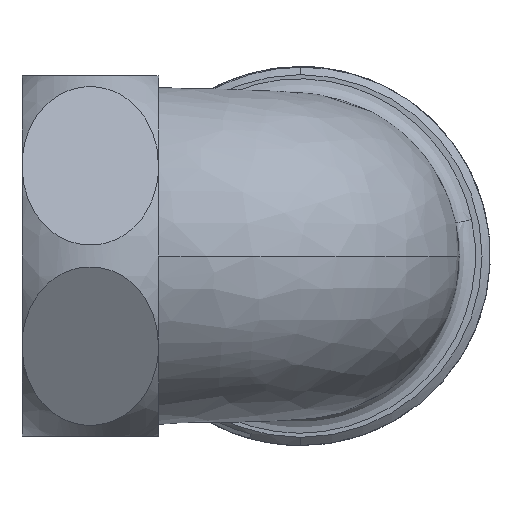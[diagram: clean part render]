
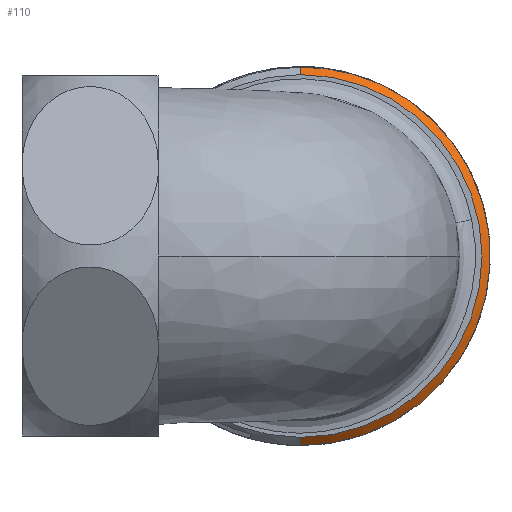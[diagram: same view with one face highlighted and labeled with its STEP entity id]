
A CAD part, left-side view. The second image highlights one B-rep face of the part: STEP entity #110.
In plain terms, the highlighted conical face has half-angle 45 degrees and reference radius 33.2 mm.
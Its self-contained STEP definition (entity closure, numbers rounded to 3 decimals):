
#110 = ADVANCED_FACE ( 'NONE', ( #2138 ), #2130, .T. ) ;
#111 = EDGE_LOOP ( 'NONE', ( #112, #113, #116, #117, #118 ) ) ;
#112 = ORIENTED_EDGE ( 'NONE', *, *, #497, .F. ) ;
#113 = ORIENTED_EDGE ( 'NONE', *, *, #1201, .F. ) ;
#116 = ORIENTED_EDGE ( 'NONE', *, *, #424, .T. ) ;
#117 = ORIENTED_EDGE ( 'NONE', *, *, #783, .F. ) ;
#118 = ORIENTED_EDGE ( 'NONE', *, *, #179, .T. ) ;
#179 = EDGE_CURVE ( 'NONE', #872, #498, #7610, .T. ) ;
#422 = VERTEX_POINT ( 'NONE', #3392 ) ;
#424 = EDGE_CURVE ( 'NONE', #429, #422, #3391, .T. ) ;
#427 = VERTEX_POINT ( 'NONE', #2906 ) ;
#429 = VERTEX_POINT ( 'NONE', #2949 ) ;
#497 = EDGE_CURVE ( 'NONE', #427, #498, #4456, .T. ) ;
#498 = VERTEX_POINT ( 'NONE', #4452 ) ;
#783 = EDGE_CURVE ( 'NONE', #872, #422, #8952, .T. ) ;
#872 = VERTEX_POINT ( 'NONE', #9696 ) ;
#1201 = EDGE_CURVE ( 'NONE', #429, #427, #11836, .T. ) ;
#1959 = DIRECTION ( 'NONE',  ( 0., 0., -1. ) ) ;
#2128 = DIRECTION ( 'NONE',  ( 1., 0., 0. ) ) ;
#2129 = AXIS2_PLACEMENT_3D ( 'NONE', #2131, #2128, #1959 ) ;
#2130 = CONICAL_SURFACE ( 'NONE', #2129, 33.2, 0.785 ) ;
#2131 = CARTESIAN_POINT ( 'NONE',  ( 43.5, 0., 0. ) ) ;
#2138 = FACE_OUTER_BOUND ( 'NONE', #111, .T. ) ;
#2906 = CARTESIAN_POINT ( 'NONE',  ( 43.5, 0., 33.2 ) ) ;
#2949 = CARTESIAN_POINT ( 'NONE',  ( 43.5, 0., -33.2 ) ) ;
#3388 = DIRECTION ( 'NONE',  ( 0.707, 0., -0.707 ) ) ;
#3389 = VECTOR ( 'NONE', #3388, 1000. ) ;
#3390 = CARTESIAN_POINT ( 'NONE',  ( 43.5, 0., -33.2 ) ) ;
#3391 = LINE ( 'NONE', #3390, #3389 ) ;
#3392 = CARTESIAN_POINT ( 'NONE',  ( 45., 0., -34.7 ) ) ;
#4452 = CARTESIAN_POINT ( 'NONE',  ( 44.857, 0., 34.557 ) ) ;
#4453 = DIRECTION ( 'NONE',  ( 0.707, 0., 0.707 ) ) ;
#4454 = VECTOR ( 'NONE', #4453, 1000. ) ;
#4455 = CARTESIAN_POINT ( 'NONE',  ( 43.5, 0., 33.2 ) ) ;
#4456 = LINE ( 'NONE', #4455, #4454 ) ;
#7606 = CARTESIAN_POINT ( 'NONE',  ( 44.988, -18.418, 29.407 ) ) ;
#7608 = CARTESIAN_POINT ( 'NONE',  ( 44.994, -19.167, 28.933 ) ) ;
#7610 = B_SPLINE_CURVE_WITH_KNOTS ( 'NONE', 3,
 ( #7845, #7608, #7606, #7771, #7769, #7768, #7766, #7764, #7748, #7746, #7745, #7744, #7742, #7618 ),
 .UNSPECIFIED., .F., .F.,
 ( 4, 2, 2, 2, 2, 2, 4 ),
 ( 0., 0.003, 0.005, 0.011, 0.016, 0.019, 0.021 ),
 .UNSPECIFIED. ) ;
#7618 = CARTESIAN_POINT ( 'NONE',  ( 44.857, 0., 34.557 ) ) ;
#7742 = CARTESIAN_POINT ( 'NONE',  ( 44.863, -0.875, 34.563 ) ) ;
#7744 = CARTESIAN_POINT ( 'NONE',  ( 44.868, -1.752, 34.535 ) ) ;
#7745 = CARTESIAN_POINT ( 'NONE',  ( 44.879, -3.507, 34.412 ) ) ;
#7746 = CARTESIAN_POINT ( 'NONE',  ( 44.885, -4.388, 34.317 ) ) ;
#7748 = CARTESIAN_POINT ( 'NONE',  ( 44.902, -7.019, 33.929 ) ) ;
#7764 = CARTESIAN_POINT ( 'NONE',  ( 44.914, -8.732, 33.54 ) ) ;
#7766 = CARTESIAN_POINT ( 'NONE',  ( 44.938, -12.078, 32.511 ) ) ;
#7768 = CARTESIAN_POINT ( 'NONE',  ( 44.95, -13.712, 31.871 ) ) ;
#7769 = CARTESIAN_POINT ( 'NONE',  ( 44.969, -16.101, 30.716 ) ) ;
#7771 = CARTESIAN_POINT ( 'NONE',  ( 44.975, -16.886, 30.299 ) ) ;
#7845 = CARTESIAN_POINT ( 'NONE',  ( 45., -19.897, 28.429 ) ) ;
#8949 = DIRECTION ( 'NONE',  ( 0., 0., -1. ) ) ;
#8950 = DIRECTION ( 'NONE',  ( 1., 0., 0. ) ) ;
#8951 = AXIS2_PLACEMENT_3D ( 'NONE', #8962, #8950, #8949 ) ;
#8952 = CIRCLE ( 'NONE', #8951, 34.7 ) ;
#8962 = CARTESIAN_POINT ( 'NONE',  ( 45., 0., 0. ) ) ;
#9696 = CARTESIAN_POINT ( 'NONE',  ( 45., -19.897, 28.429 ) ) ;
#11836 = CIRCLE ( 'NONE', #11919, 33.2 ) ;
#11916 = DIRECTION ( 'NONE',  ( 0., 0., -1. ) ) ;
#11917 = DIRECTION ( 'NONE',  ( -1., 0., 0. ) ) ;
#11918 = CARTESIAN_POINT ( 'NONE',  ( 43.5, 0., 0. ) ) ;
#11919 = AXIS2_PLACEMENT_3D ( 'NONE', #11918, #11917, #11916 ) ;
